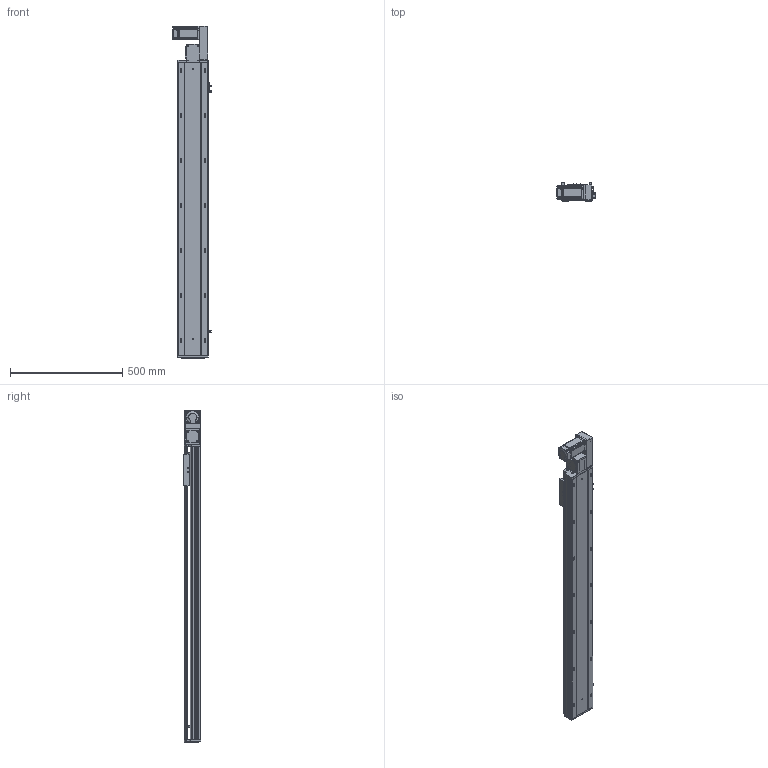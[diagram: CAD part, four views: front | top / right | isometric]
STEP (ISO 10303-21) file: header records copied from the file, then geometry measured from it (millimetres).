
FILE_DESCRIPTION (( 'STEP AP203' ), '1' );
FILE_NAME ('RY140-T-300-RK.SLDASM_1050.step', '2021-03-01T06:45:53', ( '盈信电脑' ), ( '东莞市道滘镇水果街19号' ), 'SwSTEP 2.0', 'SolidWorks 2012', '' );
FILE_SCHEMA (( 'CONFIG_CONTROL_DESIGN' ));
Length unit declared in the file: millimetre
Products named in the file (17): RY140-T-300-DR倰第菁釱_1050; RY140-T-300-RK.SLDASM_1050; RY120-T主同步轮轴承压盖; 15; RY140-T萇儂欶; RY120-T蹟翐M4; RY140-T萇儂假蚾啣; RY140-T翋肮謫裔啣; RY140-T翋肮祭謫盓傅釱; 滅袉蝶18-10; RY120-T肮祭湍揤踡輸1; RY120-T肮祭湍揤踡輸2; RY140綴裔啣; RY120外置感应片(140共用）; 覜茼ん672; RY140-T-300-DR倰第奻裔啣_1050; RY140肮祭謫臏賑輸
Assembly tree (22 placements, depth 2):
  RY140-T-300-RK.SLDASM_1050
    RY140-T-300-DR倰第菁釱_1050
    RY140肮祭謫臏賑輸
    RY140-T-300-DR倰第奻裔啣_1050
    RY140綴裔啣
    覜茼ん672  x3
    RY120外置感应片(140共用）
    RY120-T肮祭湍揤踡輸2
    RY120-T肮祭湍揤踡輸1
    RY140-T翋肮祭謫盓傅釱
    滅袉蝶18-10  x2
    RY140-T翋肮謫裔啣
    RY140-T萇儂欶
    RY140-T萇儂假蚾啣
    RY120-T蹟翐M4  x4
    15
    RY120-T主同步轮轴承压盖
Bounding box: 170.7 x 78 x 1476.5 mm (x, y, z)
Volume: 4117547.7 mm3; surface area: 1572955.3 mm2
Topology: 22 solids, 22 shells, 2671 faces, 7297 edges, 4678 vertices
Faces by surface type: plane 1381, cylinder 968, cone 222, bspline 100
Entity records: 84158 total; most frequent: CARTESIAN_POINT 20509, ORIENTED_EDGE 13074, DIRECTION 12453, EDGE_CURVE 6537, VERTEX_POINT 4277, VECTOR 4201, LINE 4201, AXIS2_PLACEMENT_3D 4126
